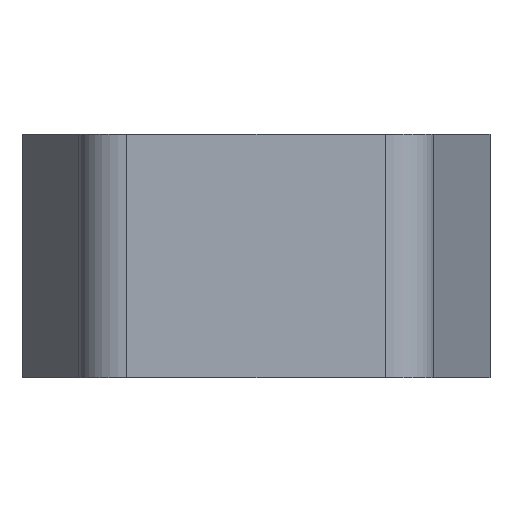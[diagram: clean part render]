
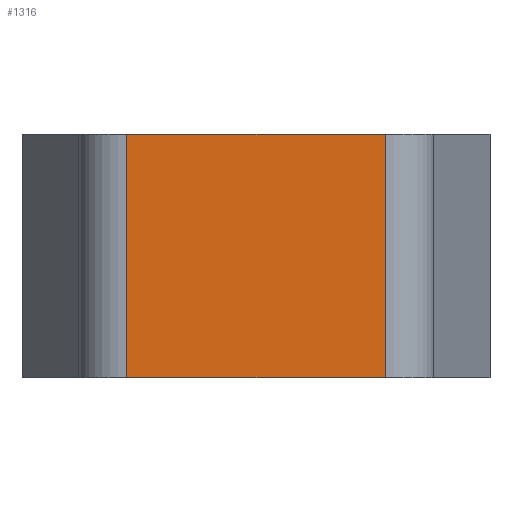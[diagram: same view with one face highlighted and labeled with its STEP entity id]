
A CAD part, left-side view. The second image highlights one B-rep face of the part: STEP entity #1316.
In plain terms, the highlighted planar face has unit normal (-1, 0, 0).
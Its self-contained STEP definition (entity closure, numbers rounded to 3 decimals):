
#50 = PLANE('',#51);
#51 = AXIS2_PLACEMENT_3D('',#52,#53,#54);
#52 = CARTESIAN_POINT('',(31.,0.,0.));
#53 = DIRECTION('',(0.,0.,1.));
#54 = DIRECTION('',(1.,0.,-0.));
#647 = VERTEX_POINT('',#648);
#648 = CARTESIAN_POINT('',(0.,2.65,0.));
#667 = CYLINDRICAL_SURFACE('',#668,1.);
#668 = AXIS2_PLACEMENT_3D('',#669,#670,#671);
#669 = CARTESIAN_POINT('',(1.,2.65,0.));
#670 = DIRECTION('',(0.,0.,1.));
#671 = DIRECTION('',(-1.,0.,0.));
#679 = EDGE_CURVE('',#647,#680,#682,.T.);
#680 = VERTEX_POINT('',#681);
#681 = CARTESIAN_POINT('',(0.,-2.65,0.));
#682 = SURFACE_CURVE('',#683,(#687,#694),.PCURVE_S1.);
#683 = LINE('',#684,#685);
#684 = CARTESIAN_POINT('',(0.,3.65,0.));
#685 = VECTOR('',#686,1.);
#686 = DIRECTION('',(0.,-1.,0.));
#687 = PCURVE('',#50,#688);
#688 = DEFINITIONAL_REPRESENTATION('',(#689),#693);
#689 = LINE('',#690,#691);
#690 = CARTESIAN_POINT('',(-31.,3.65));
#691 = VECTOR('',#692,1.);
#692 = DIRECTION('',(0.,-1.));
#693 = ( GEOMETRIC_REPRESENTATION_CONTEXT(2) 
PARAMETRIC_REPRESENTATION_CONTEXT() REPRESENTATION_CONTEXT('2D SPACE',''
  ) );
#694 = PCURVE('',#695,#700);
#695 = PLANE('',#696);
#696 = AXIS2_PLACEMENT_3D('',#697,#698,#699);
#697 = CARTESIAN_POINT('',(0.,3.65,0.));
#698 = DIRECTION('',(1.,0.,-0.));
#699 = DIRECTION('',(0.,-1.,0.));
#700 = DEFINITIONAL_REPRESENTATION('',(#701),#705);
#701 = LINE('',#702,#703);
#702 = CARTESIAN_POINT('',(0.,0.));
#703 = VECTOR('',#704,1.);
#704 = DIRECTION('',(1.,0.));
#705 = ( GEOMETRIC_REPRESENTATION_CONTEXT(2) 
PARAMETRIC_REPRESENTATION_CONTEXT() REPRESENTATION_CONTEXT('2D SPACE',''
  ) );
#726 = CYLINDRICAL_SURFACE('',#727,1.);
#727 = AXIS2_PLACEMENT_3D('',#728,#729,#730);
#728 = CARTESIAN_POINT('',(1.,-2.65,0.));
#729 = DIRECTION('',(0.,0.,1.));
#730 = DIRECTION('',(0.,-1.,0.));
#781 = PLANE('',#782);
#782 = AXIS2_PLACEMENT_3D('',#783,#784,#785);
#783 = CARTESIAN_POINT('',(31.,0.,5.));
#784 = DIRECTION('',(0.,0.,1.));
#785 = DIRECTION('',(1.,0.,-0.));
#1218 = EDGE_CURVE('',#680,#1219,#1221,.T.);
#1219 = VERTEX_POINT('',#1220);
#1220 = CARTESIAN_POINT('',(0.,-2.65,5.));
#1221 = SURFACE_CURVE('',#1222,(#1226,#1233),.PCURVE_S1.);
#1222 = LINE('',#1223,#1224);
#1223 = CARTESIAN_POINT('',(0.,-2.65,0.));
#1224 = VECTOR('',#1225,1.);
#1225 = DIRECTION('',(0.,0.,1.));
#1226 = PCURVE('',#726,#1227);
#1227 = DEFINITIONAL_REPRESENTATION('',(#1228),#1232);
#1228 = LINE('',#1229,#1230);
#1229 = CARTESIAN_POINT('',(-1.571,0.));
#1230 = VECTOR('',#1231,1.);
#1231 = DIRECTION('',(-0.,1.));
#1232 = ( GEOMETRIC_REPRESENTATION_CONTEXT(2) 
PARAMETRIC_REPRESENTATION_CONTEXT() REPRESENTATION_CONTEXT('2D SPACE',''
  ) );
#1233 = PCURVE('',#695,#1234);
#1234 = DEFINITIONAL_REPRESENTATION('',(#1235),#1239);
#1235 = LINE('',#1236,#1237);
#1236 = CARTESIAN_POINT('',(6.3,0.));
#1237 = VECTOR('',#1238,1.);
#1238 = DIRECTION('',(0.,-1.));
#1239 = ( GEOMETRIC_REPRESENTATION_CONTEXT(2) 
PARAMETRIC_REPRESENTATION_CONTEXT() REPRESENTATION_CONTEXT('2D SPACE',''
  ) );
#1316 = ADVANCED_FACE('',(#1317),#695,.F.);
#1317 = FACE_BOUND('',#1318,.F.);
#1318 = EDGE_LOOP('',(#1319,#1320,#1343,#1364));
#1319 = ORIENTED_EDGE('',*,*,#679,.F.);
#1320 = ORIENTED_EDGE('',*,*,#1321,.T.);
#1321 = EDGE_CURVE('',#647,#1322,#1324,.T.);
#1322 = VERTEX_POINT('',#1323);
#1323 = CARTESIAN_POINT('',(0.,2.65,5.));
#1324 = SURFACE_CURVE('',#1325,(#1329,#1336),.PCURVE_S1.);
#1325 = LINE('',#1326,#1327);
#1326 = CARTESIAN_POINT('',(0.,2.65,0.));
#1327 = VECTOR('',#1328,1.);
#1328 = DIRECTION('',(0.,0.,1.));
#1329 = PCURVE('',#695,#1330);
#1330 = DEFINITIONAL_REPRESENTATION('',(#1331),#1335);
#1331 = LINE('',#1332,#1333);
#1332 = CARTESIAN_POINT('',(1.,-0.));
#1333 = VECTOR('',#1334,1.);
#1334 = DIRECTION('',(0.,-1.));
#1335 = ( GEOMETRIC_REPRESENTATION_CONTEXT(2) 
PARAMETRIC_REPRESENTATION_CONTEXT() REPRESENTATION_CONTEXT('2D SPACE',''
  ) );
#1336 = PCURVE('',#667,#1337);
#1337 = DEFINITIONAL_REPRESENTATION('',(#1338),#1342);
#1338 = LINE('',#1339,#1340);
#1339 = CARTESIAN_POINT('',(-0.,0.));
#1340 = VECTOR('',#1341,1.);
#1341 = DIRECTION('',(-0.,1.));
#1342 = ( GEOMETRIC_REPRESENTATION_CONTEXT(2) 
PARAMETRIC_REPRESENTATION_CONTEXT() REPRESENTATION_CONTEXT('2D SPACE',''
  ) );
#1343 = ORIENTED_EDGE('',*,*,#1344,.T.);
#1344 = EDGE_CURVE('',#1322,#1219,#1345,.T.);
#1345 = SURFACE_CURVE('',#1346,(#1350,#1357),.PCURVE_S1.);
#1346 = LINE('',#1347,#1348);
#1347 = CARTESIAN_POINT('',(0.,3.65,5.));
#1348 = VECTOR('',#1349,1.);
#1349 = DIRECTION('',(0.,-1.,0.));
#1350 = PCURVE('',#695,#1351);
#1351 = DEFINITIONAL_REPRESENTATION('',(#1352),#1356);
#1352 = LINE('',#1353,#1354);
#1353 = CARTESIAN_POINT('',(0.,-5.));
#1354 = VECTOR('',#1355,1.);
#1355 = DIRECTION('',(1.,0.));
#1356 = ( GEOMETRIC_REPRESENTATION_CONTEXT(2) 
PARAMETRIC_REPRESENTATION_CONTEXT() REPRESENTATION_CONTEXT('2D SPACE',''
  ) );
#1357 = PCURVE('',#781,#1358);
#1358 = DEFINITIONAL_REPRESENTATION('',(#1359),#1363);
#1359 = LINE('',#1360,#1361);
#1360 = CARTESIAN_POINT('',(-31.,3.65));
#1361 = VECTOR('',#1362,1.);
#1362 = DIRECTION('',(0.,-1.));
#1363 = ( GEOMETRIC_REPRESENTATION_CONTEXT(2) 
PARAMETRIC_REPRESENTATION_CONTEXT() REPRESENTATION_CONTEXT('2D SPACE',''
  ) );
#1364 = ORIENTED_EDGE('',*,*,#1218,.F.);
